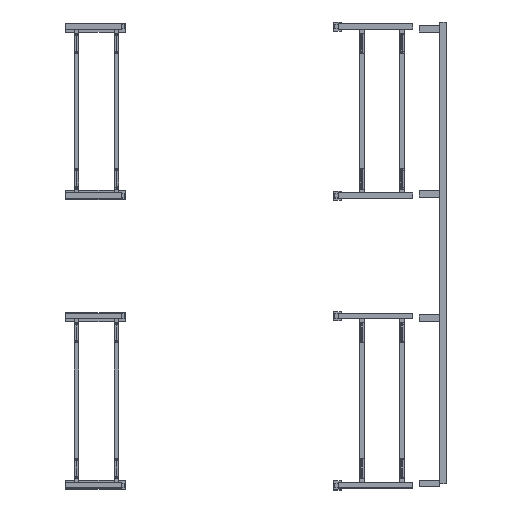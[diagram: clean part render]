
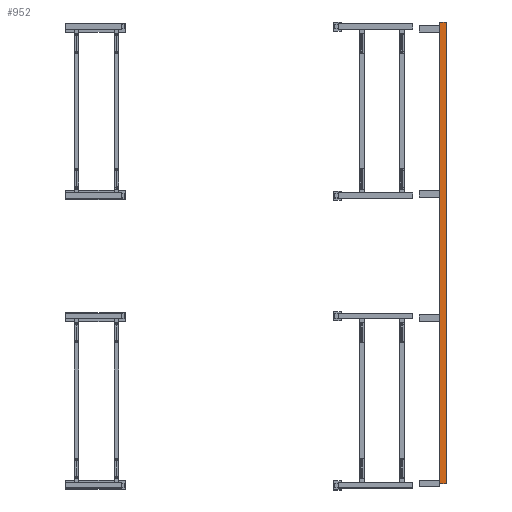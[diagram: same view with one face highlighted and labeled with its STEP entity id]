
A CAD part, top view. The second image highlights one B-rep face of the part: STEP entity #952.
In plain terms, the highlighted planar face has unit normal (0, 0, 1).
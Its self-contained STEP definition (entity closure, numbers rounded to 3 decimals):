
#657 = VERTEX_POINT('',#658);
#658 = CARTESIAN_POINT('',(1260.,-800.,178.));
#665 = PLANE('',#666);
#666 = AXIS2_PLACEMENT_3D('',#667,#668,#669);
#667 = CARTESIAN_POINT('',(1260.,-800.,153.));
#668 = DIRECTION('',(1.,0.,-0.));
#669 = DIRECTION('',(0.,0.,1.));
#677 = PLANE('',#678);
#678 = AXIS2_PLACEMENT_3D('',#679,#680,#681);
#679 = CARTESIAN_POINT('',(1260.,-800.,153.));
#680 = DIRECTION('',(-0.,1.,0.));
#681 = DIRECTION('',(0.,0.,1.));
#718 = VERTEX_POINT('',#719);
#719 = CARTESIAN_POINT('',(1260.,1240.,178.));
#733 = PLANE('',#734);
#734 = AXIS2_PLACEMENT_3D('',#735,#736,#737);
#735 = CARTESIAN_POINT('',(1260.,1240.,153.));
#736 = DIRECTION('',(-0.,1.,0.));
#737 = DIRECTION('',(0.,0.,1.));
#745 = EDGE_CURVE('',#657,#718,#746,.T.);
#746 = SURFACE_CURVE('',#747,(#751,#758),.PCURVE_S1.);
#747 = LINE('',#748,#749);
#748 = CARTESIAN_POINT('',(1260.,-800.,178.));
#749 = VECTOR('',#750,1.);
#750 = DIRECTION('',(-0.,1.,0.));
#751 = PCURVE('',#665,#752);
#752 = DEFINITIONAL_REPRESENTATION('',(#753),#757);
#753 = LINE('',#754,#755);
#754 = CARTESIAN_POINT('',(25.,0.));
#755 = VECTOR('',#756,1.);
#756 = DIRECTION('',(0.,-1.));
#757 = ( GEOMETRIC_REPRESENTATION_CONTEXT(2) 
PARAMETRIC_REPRESENTATION_CONTEXT() REPRESENTATION_CONTEXT('2D SPACE',''
  ) );
#758 = PCURVE('',#759,#764);
#759 = PLANE('',#760);
#760 = AXIS2_PLACEMENT_3D('',#761,#762,#763);
#761 = CARTESIAN_POINT('',(1260.,-800.,178.));
#762 = DIRECTION('',(0.,0.,1.));
#763 = DIRECTION('',(1.,0.,-0.));
#764 = DEFINITIONAL_REPRESENTATION('',(#765),#769);
#765 = LINE('',#766,#767);
#766 = CARTESIAN_POINT('',(0.,0.));
#767 = VECTOR('',#768,1.);
#768 = DIRECTION('',(0.,1.));
#769 = ( GEOMETRIC_REPRESENTATION_CONTEXT(2) 
PARAMETRIC_REPRESENTATION_CONTEXT() REPRESENTATION_CONTEXT('2D SPACE',''
  ) );
#798 = EDGE_CURVE('',#657,#799,#801,.T.);
#799 = VERTEX_POINT('',#800);
#800 = CARTESIAN_POINT('',(1290.,-800.,178.));
#801 = SURFACE_CURVE('',#802,(#806,#813),.PCURVE_S1.);
#802 = LINE('',#803,#804);
#803 = CARTESIAN_POINT('',(1260.,-800.,178.));
#804 = VECTOR('',#805,1.);
#805 = DIRECTION('',(1.,0.,-0.));
#806 = PCURVE('',#677,#807);
#807 = DEFINITIONAL_REPRESENTATION('',(#808),#812);
#808 = LINE('',#809,#810);
#809 = CARTESIAN_POINT('',(25.,0.));
#810 = VECTOR('',#811,1.);
#811 = DIRECTION('',(0.,1.));
#812 = ( GEOMETRIC_REPRESENTATION_CONTEXT(2) 
PARAMETRIC_REPRESENTATION_CONTEXT() REPRESENTATION_CONTEXT('2D SPACE',''
  ) );
#813 = PCURVE('',#759,#814);
#814 = DEFINITIONAL_REPRESENTATION('',(#815),#819);
#815 = LINE('',#816,#817);
#816 = CARTESIAN_POINT('',(0.,0.));
#817 = VECTOR('',#818,1.);
#818 = DIRECTION('',(1.,0.));
#819 = ( GEOMETRIC_REPRESENTATION_CONTEXT(2) 
PARAMETRIC_REPRESENTATION_CONTEXT() REPRESENTATION_CONTEXT('2D SPACE',''
  ) );
#835 = PLANE('',#836);
#836 = AXIS2_PLACEMENT_3D('',#837,#838,#839);
#837 = CARTESIAN_POINT('',(1290.,-800.,153.));
#838 = DIRECTION('',(1.,0.,-0.));
#839 = DIRECTION('',(0.,0.,1.));
#952 = ADVANCED_FACE('',(#953),#759,.T.);
#953 = FACE_BOUND('',#954,.T.);
#954 = EDGE_LOOP('',(#955,#956,#957,#980));
#955 = ORIENTED_EDGE('',*,*,#745,.F.);
#956 = ORIENTED_EDGE('',*,*,#798,.T.);
#957 = ORIENTED_EDGE('',*,*,#958,.T.);
#958 = EDGE_CURVE('',#799,#959,#961,.T.);
#959 = VERTEX_POINT('',#960);
#960 = CARTESIAN_POINT('',(1290.,1240.,178.));
#961 = SURFACE_CURVE('',#962,(#966,#973),.PCURVE_S1.);
#962 = LINE('',#963,#964);
#963 = CARTESIAN_POINT('',(1290.,-800.,178.));
#964 = VECTOR('',#965,1.);
#965 = DIRECTION('',(-0.,1.,0.));
#966 = PCURVE('',#759,#967);
#967 = DEFINITIONAL_REPRESENTATION('',(#968),#972);
#968 = LINE('',#969,#970);
#969 = CARTESIAN_POINT('',(30.,0.));
#970 = VECTOR('',#971,1.);
#971 = DIRECTION('',(0.,1.));
#972 = ( GEOMETRIC_REPRESENTATION_CONTEXT(2) 
PARAMETRIC_REPRESENTATION_CONTEXT() REPRESENTATION_CONTEXT('2D SPACE',''
  ) );
#973 = PCURVE('',#835,#974);
#974 = DEFINITIONAL_REPRESENTATION('',(#975),#979);
#975 = LINE('',#976,#977);
#976 = CARTESIAN_POINT('',(25.,0.));
#977 = VECTOR('',#978,1.);
#978 = DIRECTION('',(0.,-1.));
#979 = ( GEOMETRIC_REPRESENTATION_CONTEXT(2) 
PARAMETRIC_REPRESENTATION_CONTEXT() REPRESENTATION_CONTEXT('2D SPACE',''
  ) );
#980 = ORIENTED_EDGE('',*,*,#981,.F.);
#981 = EDGE_CURVE('',#718,#959,#982,.T.);
#982 = SURFACE_CURVE('',#983,(#987,#994),.PCURVE_S1.);
#983 = LINE('',#984,#985);
#984 = CARTESIAN_POINT('',(1260.,1240.,178.));
#985 = VECTOR('',#986,1.);
#986 = DIRECTION('',(1.,0.,-0.));
#987 = PCURVE('',#759,#988);
#988 = DEFINITIONAL_REPRESENTATION('',(#989),#993);
#989 = LINE('',#990,#991);
#990 = CARTESIAN_POINT('',(0.,2040.));
#991 = VECTOR('',#992,1.);
#992 = DIRECTION('',(1.,0.));
#993 = ( GEOMETRIC_REPRESENTATION_CONTEXT(2) 
PARAMETRIC_REPRESENTATION_CONTEXT() REPRESENTATION_CONTEXT('2D SPACE',''
  ) );
#994 = PCURVE('',#733,#995);
#995 = DEFINITIONAL_REPRESENTATION('',(#996),#1000);
#996 = LINE('',#997,#998);
#997 = CARTESIAN_POINT('',(25.,0.));
#998 = VECTOR('',#999,1.);
#999 = DIRECTION('',(0.,1.));
#1000 = ( GEOMETRIC_REPRESENTATION_CONTEXT(2) 
PARAMETRIC_REPRESENTATION_CONTEXT() REPRESENTATION_CONTEXT('2D SPACE',''
  ) );
